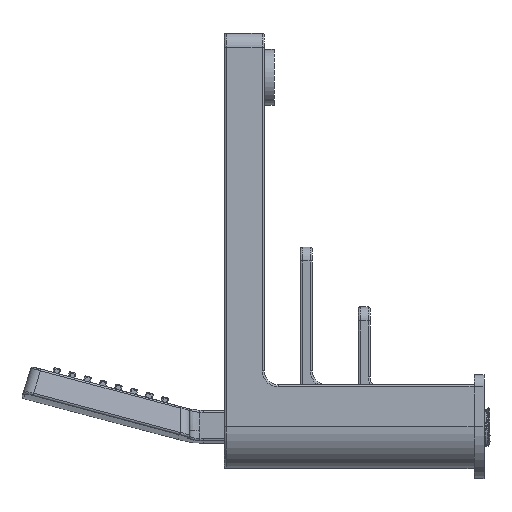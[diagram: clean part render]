
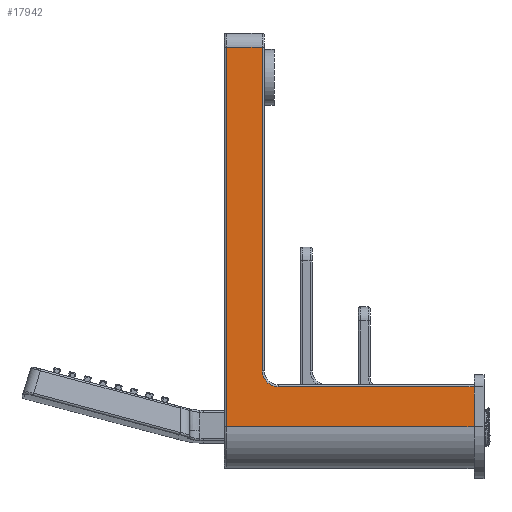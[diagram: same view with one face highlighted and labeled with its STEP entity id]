
A CAD part, left-side view. The second image highlights one B-rep face of the part: STEP entity #17942.
In plain terms, the highlighted planar face has unit normal (-1, 0, 0).
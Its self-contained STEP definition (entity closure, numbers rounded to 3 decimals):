
#797=PLANE('',#20168);
#1903=FACE_OUTER_BOUND('',#3190,.T.);
#3190=EDGE_LOOP('',(#15680,#15681,#15682,#15683,#15684,#15685,#15686));
#4378=CIRCLE('',#20165,8.);
#5663=LINE('',#34548,#6960);
#5665=LINE('',#34560,#6962);
#5666=LINE('',#34563,#6963);
#5667=LINE('',#34565,#6964);
#5668=LINE('',#34567,#6965);
#5669=LINE('',#34568,#6966);
#6960=VECTOR('',#25670,10.);
#6962=VECTOR('',#25684,10.);
#6963=VECTOR('',#25687,10.);
#6964=VECTOR('',#25688,10.);
#6965=VECTOR('',#25689,10.);
#6966=VECTOR('',#25690,10.);
#8444=VERTEX_POINT('',#34538);
#8446=VERTEX_POINT('',#34544);
#8448=VERTEX_POINT('',#34550);
#8450=VERTEX_POINT('',#34556);
#8452=VERTEX_POINT('',#34562);
#8453=VERTEX_POINT('',#34564);
#8454=VERTEX_POINT('',#34566);
#10886=EDGE_CURVE('',#8444,#8446,#5663,.T.);
#10889=EDGE_CURVE('',#8446,#8448,#4378,.T.);
#10892=EDGE_CURVE('',#8448,#8450,#5665,.T.);
#10893=EDGE_CURVE('',#8452,#8444,#5666,.T.);
#10894=EDGE_CURVE('',#8453,#8452,#5667,.T.);
#10895=EDGE_CURVE('',#8454,#8453,#5668,.T.);
#10896=EDGE_CURVE('',#8450,#8454,#5669,.T.);
#15680=ORIENTED_EDGE('',*,*,#10892,.F.);
#15681=ORIENTED_EDGE('',*,*,#10889,.F.);
#15682=ORIENTED_EDGE('',*,*,#10886,.F.);
#15683=ORIENTED_EDGE('',*,*,#10893,.F.);
#15684=ORIENTED_EDGE('',*,*,#10894,.F.);
#15685=ORIENTED_EDGE('',*,*,#10895,.F.);
#15686=ORIENTED_EDGE('',*,*,#10896,.F.);
#17942=ADVANCED_FACE('',(#1903),#797,.T.);
#20165=AXIS2_PLACEMENT_3D('',#34554,#25677,#25678);
#20168=AXIS2_PLACEMENT_3D('',#34561,#25685,#25686);
#25670=DIRECTION('',(0.,0.,-1.));
#25677=DIRECTION('center_axis',(-1.,0.,0.));
#25678=DIRECTION('ref_axis',(0.,0.707,-0.707));
#25684=DIRECTION('',(0.,-1.,0.));
#25685=DIRECTION('center_axis',(-1.,0.,0.));
#25686=DIRECTION('ref_axis',(0.,0.,1.));
#25687=DIRECTION('',(0.,-1.,0.));
#25688=DIRECTION('',(0.,0.,1.));
#25689=DIRECTION('',(0.,1.,0.));
#25690=DIRECTION('',(0.,0.,-1.));
#34538=CARTESIAN_POINT('',(-201.,111.,190.));
#34544=CARTESIAN_POINT('',(-201.,111.,28.));
#34548=CARTESIAN_POINT('',(-201.,111.,0.));
#34550=CARTESIAN_POINT('',(-201.,103.,20.));
#34554=CARTESIAN_POINT('Origin',(-201.,103.,28.));
#34556=CARTESIAN_POINT('',(-201.,5.,20.));
#34560=CARTESIAN_POINT('',(-201.,5.,20.));
#34561=CARTESIAN_POINT('Origin',(-201.,5.,-21.));
#34562=CARTESIAN_POINT('',(-201.,129.,190.));
#34563=CARTESIAN_POINT('',(-201.,125.,190.));
#34564=CARTESIAN_POINT('',(-201.,129.,0.));
#34565=CARTESIAN_POINT('',(-201.,129.,-10.5));
#34566=CARTESIAN_POINT('',(-201.,5.,0.));
#34567=CARTESIAN_POINT('',(-201.,5.,0.));
#34568=CARTESIAN_POINT('',(-201.,5.,21.));
